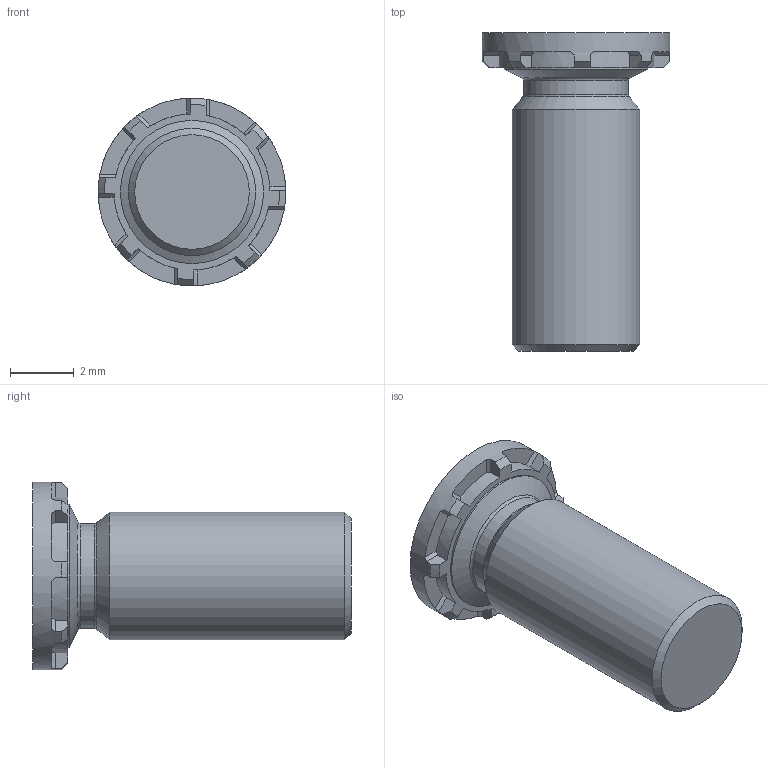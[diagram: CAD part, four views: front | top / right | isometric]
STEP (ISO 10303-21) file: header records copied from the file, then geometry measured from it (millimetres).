
FILE_DESCRIPTION(/* description */ (''),/* implementation_level */ '2;1');
FILE_NAME(/* name */ 'C:\Users\keval.kumar\Desktop\Fastit\Clinch Screw- FH Range\M4\Clinch Screw-FH Range_M4x10.stp',/* time_stamp */ '2024-03-12T11:57:39+05:00',/* author */ ('keval.kumar'),/* organization */ (''),/* preprocessor_version */ 'ST-DEVELOPER v18.1',/* originating_system */ 'Autodesk Inventor 2022',/* authorisation */ '');
FILE_SCHEMA (('AUTOMOTIVE_DESIGN { 1 0 10303 214 3 1 1 }'));
Length unit declared in the file: millimetre
Products named in the file (1): Clinch Screw-FH Range_M4x10
Bounding box: 5.9 x 10 x 5.9 mm (x, y, z)
Volume: 135.4 mm3; surface area: 187.5 mm2
Topology: 1 solids, 1 shells, 68 faces, 193 edges, 128 vertices
Faces by surface type: plane 43, cylinder 12, cone 11, torus 2
Full cylindrical faces by diameter (mm): 3.3 x1, 4 x1, 4.5 x1, 5.9 x1
Entity records: 2286 total; most frequent: DIRECTION 413, CARTESIAN_POINT 406, ORIENTED_EDGE 386, EDGE_CURVE 193, AXIS2_PLACEMENT_3D 159, VERTEX_POINT 128, LINE 95, VECTOR 95
